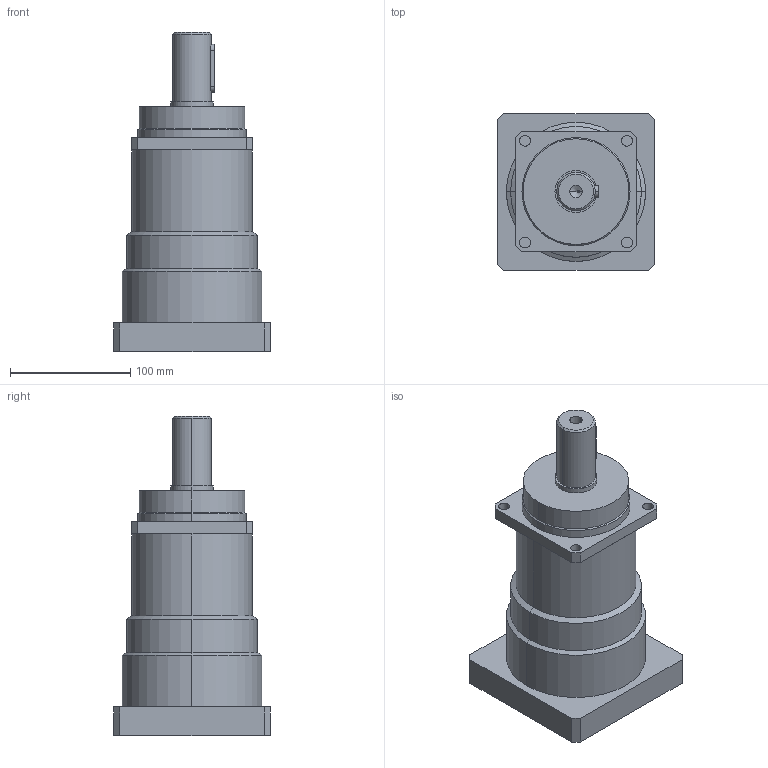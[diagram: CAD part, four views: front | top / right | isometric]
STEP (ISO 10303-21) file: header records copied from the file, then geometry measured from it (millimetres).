
FILE_DESCRIPTION (( 'STEP AP214' ), '1' );
FILE_NAME ('VRS100-L2.STEP', '2019-08-31T06:04:36', ( '微软用户' ), ( '微软中国' ), 'SwSTEP 2.0', 'SolidWorks 2014', '' );
FILE_SCHEMA (( 'AUTOMOTIVE_DESIGN' ));
Length unit declared in the file: millimetre
Products named in the file (2): VRS100-L2
Bounding box: 130 x 130 x 266 mm (x, y, z)
Volume: 1797085.6 mm3; surface area: 129189 mm2
Topology: 1 solids, 1 shells, 717 faces, 2027 edges, 1336 vertices
Faces by surface type: plane 600, bspline 60, cylinder 39, cone 18
Entity records: 29982 total; most frequent: CARTESIAN_POINT 4920, ORIENTED_EDGE 4034, DIRECTION 3290, EDGE_CURVE 2017, VECTOR 1814, LINE 1814, VERTEX_POINT 1336, EDGE_LOOP 751
